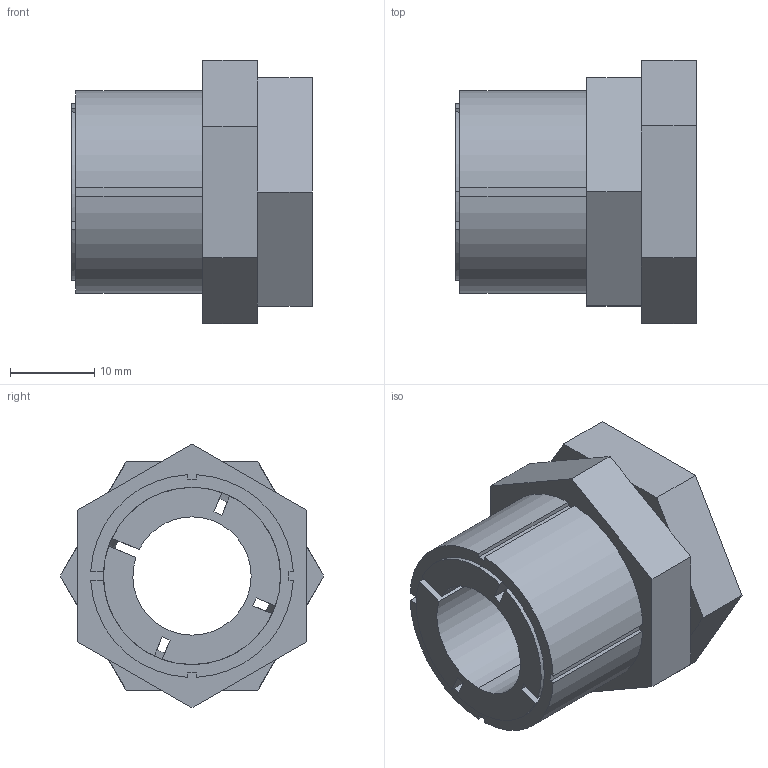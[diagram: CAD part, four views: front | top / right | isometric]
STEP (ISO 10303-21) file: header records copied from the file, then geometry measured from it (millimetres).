
FILE_DESCRIPTION (( 'STEP AP203' ), '1' );
FILE_NAME ('KBS 59 - 14 x 24.STEP', '2015-07-07T21:01:44', ( '' ), ( '' ), 'SwSTEP 2.0', 'SolidWorks 2010', '' );
FILE_SCHEMA (( 'CONFIG_CONTROL_DESIGN' ));
Length unit declared in the file: millimetre
Products named in the file (1): KBS 59 - 14 x 24
Bounding box: 28.5 x 31.18 x 31.18 mm (x, y, z)
Volume: 10333.2 mm3; surface area: 8971.6 mm2
Topology: 3 solids, 3 shells, 78 faces, 204 edges, 132 vertices
Faces by surface type: plane 56, cylinder 14, cone 8
Entity records: 2469 total; most frequent: CARTESIAN_POINT 451, ORIENTED_EDGE 408, DIRECTION 396, EDGE_CURVE 204, VECTOR 150, LINE 150, VERTEX_POINT 132, AXIS2_PLACEMENT_3D 123
